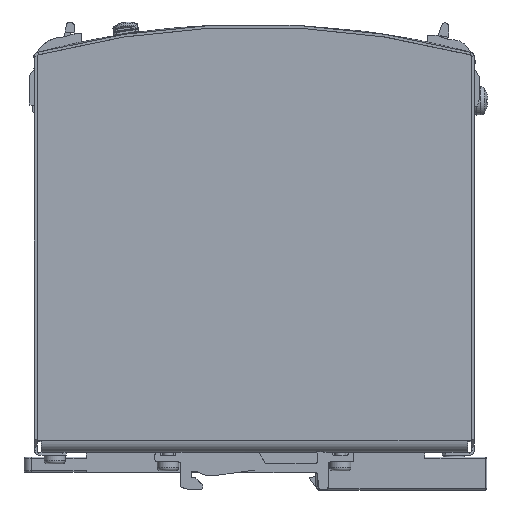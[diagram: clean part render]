
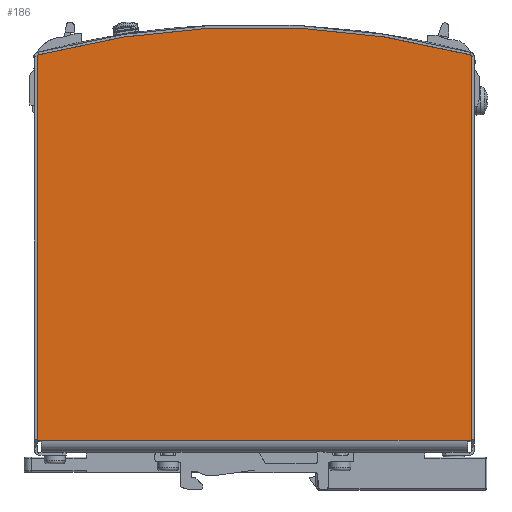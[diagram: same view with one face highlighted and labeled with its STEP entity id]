
A CAD part, front view. The second image highlights one B-rep face of the part: STEP entity #186.
In plain terms, the highlighted planar face has unit normal (0, -1, 0).
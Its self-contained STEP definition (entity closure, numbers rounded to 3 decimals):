
#98=CARTESIAN_POINT('',(61.15,-32.5,112.079));
#99=VERTEX_POINT('',#98);
#106=CARTESIAN_POINT('',(61.15,-32.5,3.5));
#107=VERTEX_POINT('',#106);
#108=CARTESIAN_POINT('',(61.15,-32.5,3.5));
#109=DIRECTION('',(0.0,0.0,1.0));
#110=VECTOR('',#109,108.579);
#111=LINE('',#108,#110);
#112=EDGE_CURVE('',#107,#99,#111,.T.);
#155=CARTESIAN_POINT('',(61.15,-32.5,1.5));
#156=DIRECTION('',(0.0,1.0,0.0));
#157=DIRECTION('',(0.0,0.0,1.0));
#158=AXIS2_PLACEMENT_3D('',#155,#156,#157);
#159=PLANE('',#158);
#160=ORIENTED_EDGE('',*,*,#112,.T.);
#161=CARTESIAN_POINT('',(-61.15,-32.5,112.079));
#162=VERTEX_POINT('',#161);
#163=CARTESIAN_POINT('',(0.,-32.5,-120.0));
#164=DIRECTION('',(0.0,-1.0,0.0));
#165=DIRECTION('',(0.0,0.0,-1.0));
#166=AXIS2_PLACEMENT_3D('',#163,#164,#165);
#167=CIRCLE('',#166,240.0);
#168=EDGE_CURVE('',#99,#162,#167,.T.);
#169=ORIENTED_EDGE('',*,*,#168,.T.);
#170=CARTESIAN_POINT('',(-61.15,-32.5,3.5));
#171=VERTEX_POINT('',#170);
#172=CARTESIAN_POINT('',(-61.15,-32.5,112.079));
#173=DIRECTION('',(0.0,0.0,-1.0));
#174=VECTOR('',#173,108.579);
#175=LINE('',#172,#174);
#176=EDGE_CURVE('',#162,#171,#175,.T.);
#177=ORIENTED_EDGE('',*,*,#176,.T.);
#178=CARTESIAN_POINT('',(61.15,-32.5,3.5));
#179=DIRECTION('',(-1.0,0.0,0.0));
#180=VECTOR('',#179,122.3);
#181=LINE('',#178,#180);
#182=EDGE_CURVE('',#107,#171,#181,.T.);
#183=ORIENTED_EDGE('',*,*,#182,.F.);
#184=EDGE_LOOP('',(#160,#169,#177,#183));
#185=FACE_OUTER_BOUND('',#184,.T.);
#186=ADVANCED_FACE('',(#185),#159,.F.);
